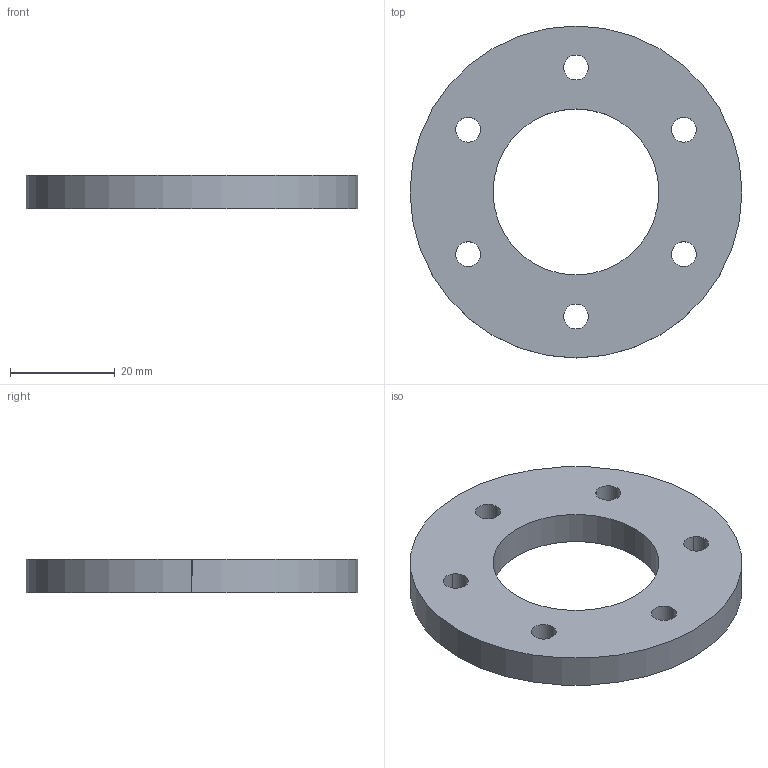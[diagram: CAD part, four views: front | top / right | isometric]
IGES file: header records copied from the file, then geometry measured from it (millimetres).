
Global section: file name: C:\Documents and Settings\Administrator\Desktop\Transfer Temp\wheelsprocketspacer.igs; native system: AutoDesk Inventor R2.0 ; preprocessor: AutoDesk Inventor Iges Exporter R2.0; author: No Author specified; organization: No Organization specified; date: 20011227.203211; units: inch
Bounding box: 63.5 x 63.5 x 6.35 mm (x, y, z)
Surface area: 7006.7 mm2 (no closed solid volume)
Topology: 0 solids, 0 shells, 18 faces, 96 edges, 96 vertices
Faces by surface type: bspline 14, revolution 4
